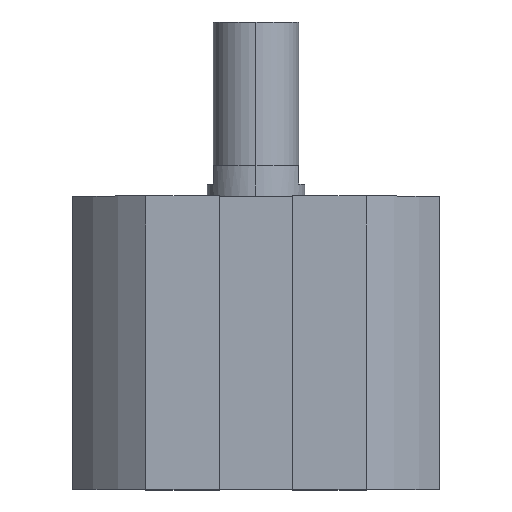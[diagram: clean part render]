
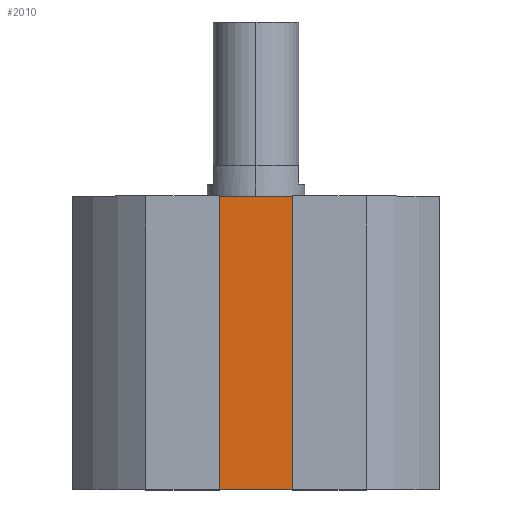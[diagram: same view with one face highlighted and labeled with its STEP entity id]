
A CAD part, top view. The second image highlights one B-rep face of the part: STEP entity #2010.
In plain terms, the highlighted planar face has unit normal (0, 0, 1).
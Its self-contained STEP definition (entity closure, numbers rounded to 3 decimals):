
#3 = DIRECTION ( 'NONE',  ( 0., 0., 1. ) ) ;
#105 = VECTOR ( 'NONE', #435, 1000. ) ;
#189 = CARTESIAN_POINT ( 'NONE',  ( 0., 0., 20.15 ) ) ;
#235 = DIRECTION ( 'NONE',  ( 0., 1., 0. ) ) ;
#244 = ORIENTED_EDGE ( 'NONE', *, *, #2455, .F. ) ;
#435 = DIRECTION ( 'NONE',  ( 1., 0., 0. ) ) ;
#510 = PLANE ( 'NONE',  #3053 ) ;
#708 = VERTEX_POINT ( 'NONE', #2593 ) ;
#735 = VERTEX_POINT ( 'NONE', #2075 ) ;
#770 = CARTESIAN_POINT ( 'NONE',  ( 0., -48., 20.15 ) ) ;
#1228 = VECTOR ( 'NONE', #1551, 1000. ) ;
#1242 = CARTESIAN_POINT ( 'NONE',  ( -8., -48., 20.15 ) ) ;
#1349 = LINE ( 'NONE', #1242, #2591 ) ;
#1457 = CARTESIAN_POINT ( 'NONE',  ( 8., -48., 20.15 ) ) ;
#1468 = CARTESIAN_POINT ( 'NONE',  ( 0., -48., 20.15 ) ) ;
#1529 = VERTEX_POINT ( 'NONE', #1457 ) ;
#1551 = DIRECTION ( 'NONE',  ( 0., 1., 0. ) ) ;
#1903 = ORIENTED_EDGE ( 'NONE', *, *, #1977, .T. ) ;
#1977 = EDGE_CURVE ( 'NONE', #708, #1529, #2631, .T. ) ;
#2010 = ADVANCED_FACE ( 'NONE', ( #2521 ), #510, .T. ) ;
#2063 = LINE ( 'NONE', #2998, #1228 ) ;
#2075 = CARTESIAN_POINT ( 'NONE',  ( 8., 0., 20.15 ) ) ;
#2181 = ORIENTED_EDGE ( 'NONE', *, *, #2850, .T. ) ;
#2237 = VECTOR ( 'NONE', #3247, 1000. ) ;
#2290 = DIRECTION ( 'NONE',  ( 1., 0., 0. ) ) ;
#2455 = EDGE_CURVE ( 'NONE', #708, #2943, #1349, .T. ) ;
#2502 = ORIENTED_EDGE ( 'NONE', *, *, #3256, .F. ) ;
#2521 = FACE_OUTER_BOUND ( 'NONE', #3283, .T. ) ;
#2591 = VECTOR ( 'NONE', #235, 1000. ) ;
#2593 = CARTESIAN_POINT ( 'NONE',  ( -8., -48., 20.15 ) ) ;
#2631 = LINE ( 'NONE', #1468, #2237 ) ;
#2850 = EDGE_CURVE ( 'NONE', #1529, #735, #2063, .T. ) ;
#2858 = CARTESIAN_POINT ( 'NONE',  ( -8., 0., 20.15 ) ) ;
#2943 = VERTEX_POINT ( 'NONE', #2858 ) ;
#2998 = CARTESIAN_POINT ( 'NONE',  ( 8., -48., 20.15 ) ) ;
#3053 = AXIS2_PLACEMENT_3D ( 'NONE', #770, #3, #2290 ) ;
#3177 = LINE ( 'NONE', #189, #105 ) ;
#3247 = DIRECTION ( 'NONE',  ( 1., 0., 0. ) ) ;
#3256 = EDGE_CURVE ( 'NONE', #2943, #735, #3177, .T. ) ;
#3283 = EDGE_LOOP ( 'NONE', ( #2502, #244, #1903, #2181 ) ) ;
